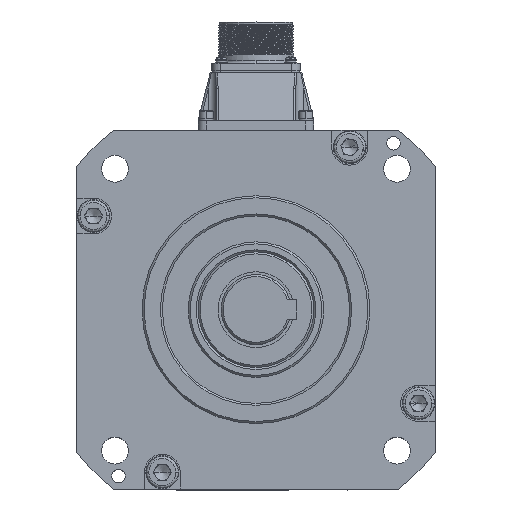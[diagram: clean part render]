
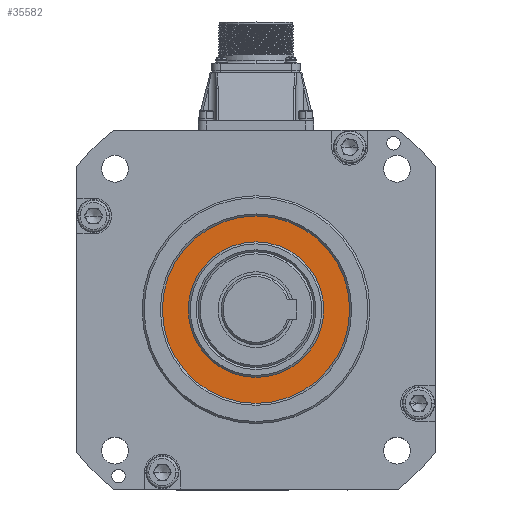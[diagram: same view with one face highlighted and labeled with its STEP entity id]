
A CAD part, top view. The second image highlights one B-rep face of the part: STEP entity #35582.
In plain terms, the highlighted planar face has unit normal (0, 0, 1).
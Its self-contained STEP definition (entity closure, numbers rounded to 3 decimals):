
#7359 = DIRECTION ( 'NONE',  ( -1., 0., 0. ) ) ;
#8120 = DIRECTION ( 'NONE',  ( -1., 0., 0. ) ) ;
#12026 = DIRECTION ( 'NONE',  ( 0., 0., 1. ) ) ;
#13554 = CARTESIAN_POINT ( 'NONE',  ( 198.913, 234.043, 335.133 ) ) ;
#17870 = FACE_BOUND ( 'NONE', #99187, .T. ) ;
#23028 = ORIENTED_EDGE ( 'NONE', *, *, #34343, .T. ) ;
#24150 = DIRECTION ( 'NONE',  ( 0., 0., 1. ) ) ;
#26348 = EDGE_CURVE ( 'NONE', #100450, #58450, #97686, .T. ) ;
#28960 = CARTESIAN_POINT ( 'NONE',  ( 164.913, 234.043, 335.133 ) ) ;
#29055 = CIRCLE ( 'NONE', #56877, 34. ) ;
#29545 = CARTESIAN_POINT ( 'NONE',  ( 117.913, 234.043, 335.133 ) ) ;
#31725 = EDGE_CURVE ( 'NONE', #58450, #100450, #29055, .T. ) ;
#33480 = EDGE_LOOP ( 'NONE', ( #45348, #23028 ) ) ;
#34343 = EDGE_CURVE ( 'NONE', #38813, #96984, #37855, .T. ) ;
#35582 = ADVANCED_FACE ( 'NONE', ( #107475, #17870 ), #96437, .T. ) ;
#37855 = CIRCLE ( 'NONE', #97897, 47. ) ;
#38813 = VERTEX_POINT ( 'NONE', #92898 ) ;
#38900 = ORIENTED_EDGE ( 'NONE', *, *, #26348, .T. ) ;
#40530 = DIRECTION ( 'NONE',  ( 0., 0., 1. ) ) ;
#42426 = AXIS2_PLACEMENT_3D ( 'NONE', #91078, #40530, #99487 ) ;
#45348 = ORIENTED_EDGE ( 'NONE', *, *, #60644, .T. ) ;
#49931 = AXIS2_PLACEMENT_3D ( 'NONE', #28960, #12026, #104847 ) ;
#51558 = AXIS2_PLACEMENT_3D ( 'NONE', #108999, #58574, #8120 ) ;
#56877 = AXIS2_PLACEMENT_3D ( 'NONE', #108217, #57787, #7359 ) ;
#57787 = DIRECTION ( 'NONE',  ( 0., 0., -1. ) ) ;
#58450 = VERTEX_POINT ( 'NONE', #13554 ) ;
#58574 = DIRECTION ( 'NONE',  ( 0., 0., -1. ) ) ;
#59197 = CIRCLE ( 'NONE', #42426, 47. ) ;
#60644 = EDGE_CURVE ( 'NONE', #96984, #38813, #59197, .T. ) ;
#74704 = CARTESIAN_POINT ( 'NONE',  ( 164.913, 234.043, 335.133 ) ) ;
#78043 = CARTESIAN_POINT ( 'NONE',  ( 130.913, 234.043, 335.133 ) ) ;
#83195 = DIRECTION ( 'NONE',  ( -1., 0., 0. ) ) ;
#91078 = CARTESIAN_POINT ( 'NONE',  ( 164.913, 234.043, 335.133 ) ) ;
#92898 = CARTESIAN_POINT ( 'NONE',  ( 211.913, 234.043, 335.133 ) ) ;
#96437 = PLANE ( 'NONE',  #49931 ) ;
#96982 = ORIENTED_EDGE ( 'NONE', *, *, #31725, .T. ) ;
#96984 = VERTEX_POINT ( 'NONE', #29545 ) ;
#97686 = CIRCLE ( 'NONE', #51558, 34. ) ;
#97897 = AXIS2_PLACEMENT_3D ( 'NONE', #74704, #24150, #83195 ) ;
#99187 = EDGE_LOOP ( 'NONE', ( #38900, #96982 ) ) ;
#99487 = DIRECTION ( 'NONE',  ( -1., 0., 0. ) ) ;
#100450 = VERTEX_POINT ( 'NONE', #78043 ) ;
#104847 = DIRECTION ( 'NONE',  ( 1., 0., 0. ) ) ;
#107475 = FACE_OUTER_BOUND ( 'NONE', #33480, .T. ) ;
#108217 = CARTESIAN_POINT ( 'NONE',  ( 164.913, 234.043, 335.133 ) ) ;
#108999 = CARTESIAN_POINT ( 'NONE',  ( 164.913, 234.043, 335.133 ) ) ;
